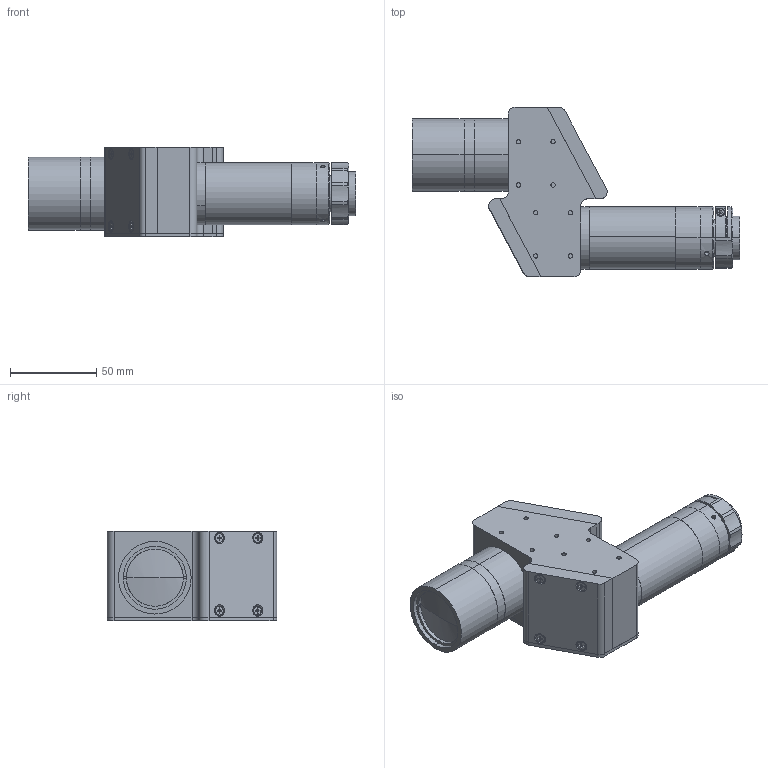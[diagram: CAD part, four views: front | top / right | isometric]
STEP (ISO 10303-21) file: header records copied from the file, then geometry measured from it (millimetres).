
FILE_DESCRIPTION (( 'STEP AP203' ), '1' );
FILE_NAME ('XF-MH06X396.STEP', '2020-08-24T07:17:10', ( 'canrill-02' ), ( '' ), 'SwSTEP 2.0', 'SolidWorks 2014', '' );
FILE_SCHEMA (( 'CONFIG_CONTROL_DESIGN' ));
Length unit declared in the file: millimetre
Products named in the file (1): XF-MH06X396
Bounding box: 189.47 x 98 x 52 mm (x, y, z)
Surface area: 49755.9 mm2 (no closed solid volume)
Topology: 0 solids, 31 shells, 403 faces, 1327 edges, 911 vertices
Faces by surface type: plane 207, cylinder 151, cone 41, sphere 2, torus 2
Entity records: 14813 total; most frequent: CARTESIAN_POINT 2961, DIRECTION 2577, ORIENTED_EDGE 2147, EDGE_CURVE 1325, VERTEX_POINT 911, AXIS2_PLACEMENT_3D 871, VECTOR 835, LINE 835
